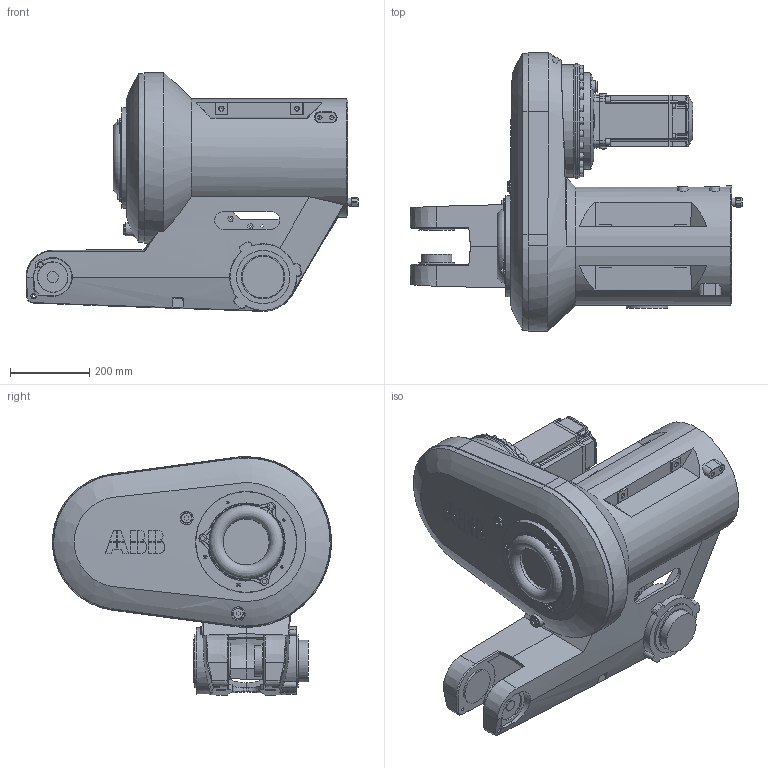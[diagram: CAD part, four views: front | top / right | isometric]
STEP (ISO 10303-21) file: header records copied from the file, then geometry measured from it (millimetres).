
FILE_DESCRIPTION (( 'STEP AP214' ), '1' );
FILE_NAME ('IRB7720_All-310_OC_00_LINK03_CAD.step', '2026-01-28T12:47:23', ( '' ), ( '' ), 'SwSTEP 2.0', 'SolidWorks 2024', '' );
FILE_SCHEMA (( 'AUTOMOTIVE_DESIGN' ));
Length unit declared in the file: millimetre
Products named in the file (1): IRB7720_All-310_OC_00_LINK03_CAD
Bounding box: 836.26 x 702.46 x 601.27 mm (x, y, z)
Volume: 69371866.4 mm3; surface area: 2454620.6 mm2
Topology: 1 solids, 1 shells, 1146 faces, 2936 edges, 1918 vertices
Faces by surface type: plane 603, cone 210, cylinder 190, bspline 114, torus 15, sphere 14
Full cylindrical faces by diameter (mm): 5 x9, 6.8 x4, 8.5 x4, 10 x6, 10.2 x4, 10.5 x2, 12 x4, 13 x1, 14 x2, 16.27 x30, 17.7 x1, 19 x2, 19.7 x2, 20 x1, 22 x2, 23 x1, 26.5 x1, 27 x3, 28 x2, 28.58 x1, 59.95 x1, 60 x1, 77 x1, 104.34 x1, 105 x1, 109.89 x2, 128 x2, 134 x2, 190 x1, 284 x1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
Entity records: 59349 total; most frequent: CARTESIAN_POINT 21387, ORIENTED_EDGE 5318, DIRECTION 4753, EDGE_CURVE 2659, VERTEX_POINT 1834, AXIS2_PLACEMENT_3D 1790, EDGE_LOOP 1485, FACE_OUTER_BOUND 1254
